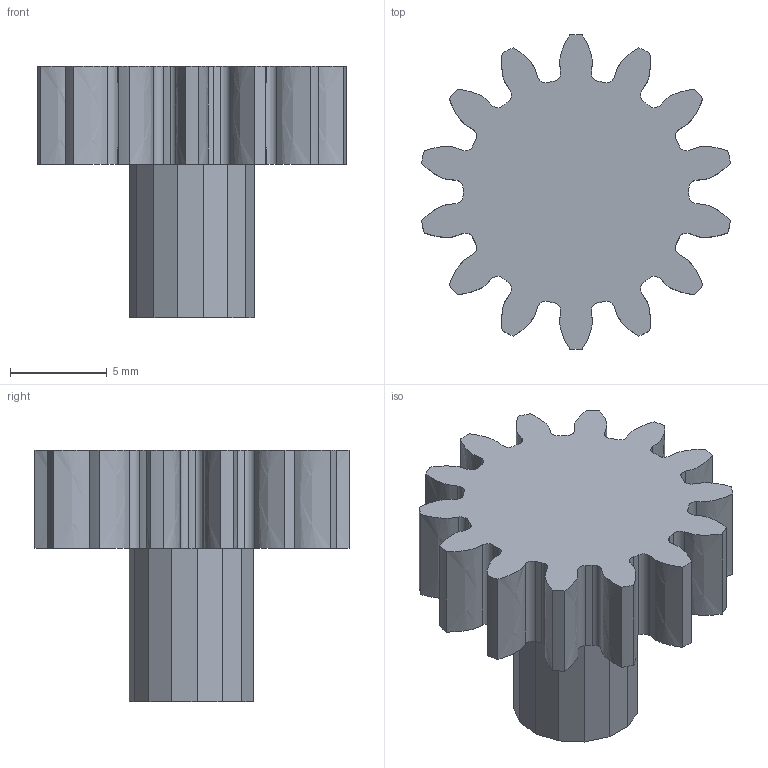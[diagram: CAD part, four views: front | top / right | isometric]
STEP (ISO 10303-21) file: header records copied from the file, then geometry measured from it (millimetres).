
FILE_DESCRIPTION(/* description */ ('STEP AP242 Edition 2','CAx-IF Rec.Pracs.---Representation and Presentation of Product Manufacturing Information (PMI)---4.0---2014-10-13','CAx-IF Rec.Pracs.---3D Tessellated Geometry---0.4---2014-09-14','2;1','CAx-IF Rec.Pracs.---User Defined Attributes---1.5---2016-08-15'),/* implementation_level */ '2;1');
FILE_NAME(/* name */ 'Main - 14t drive spur gear',/* time_stamp */ '2026-09-13T15:49:56Z',/* author */ (''),/* organization */ (''),/* preprocessor_version */ 'ST-DEVELOPER v20',/* originating_system */ 'ONSHAPE BY PTC INC, 1.220',/* authorisation */ ' ');
FILE_SCHEMA (('AP242_MANAGED_MODEL_BASED_3D_ENGINEERING_MIM_LF { 1 0 10303 442 3 1 4 }'));
Length unit declared in the file: metre
Products named in the file (1): 14t drive spur gear
Bounding box: 15.98 x 16.25 x 13.02 mm (x, y, z)
Volume: 1000.5 mm3; surface area: 970.2 mm2
Topology: 1 solids, 1 shells, 104 faces, 301 edges, 201 vertices
Faces by surface type: cylinder 57, bspline 28, plane 19
Full cylindrical faces by diameter (mm): 2.891 x1
Entity records: 6051 total; most frequent: CARTESIAN_POINT 3376, ORIENTED_EDGE 598, DIRECTION 511, EDGE_CURVE 299, VERTEX_POINT 200, AXIS2_PLACEMENT_3D 191, LINE 129, VECTOR 129
